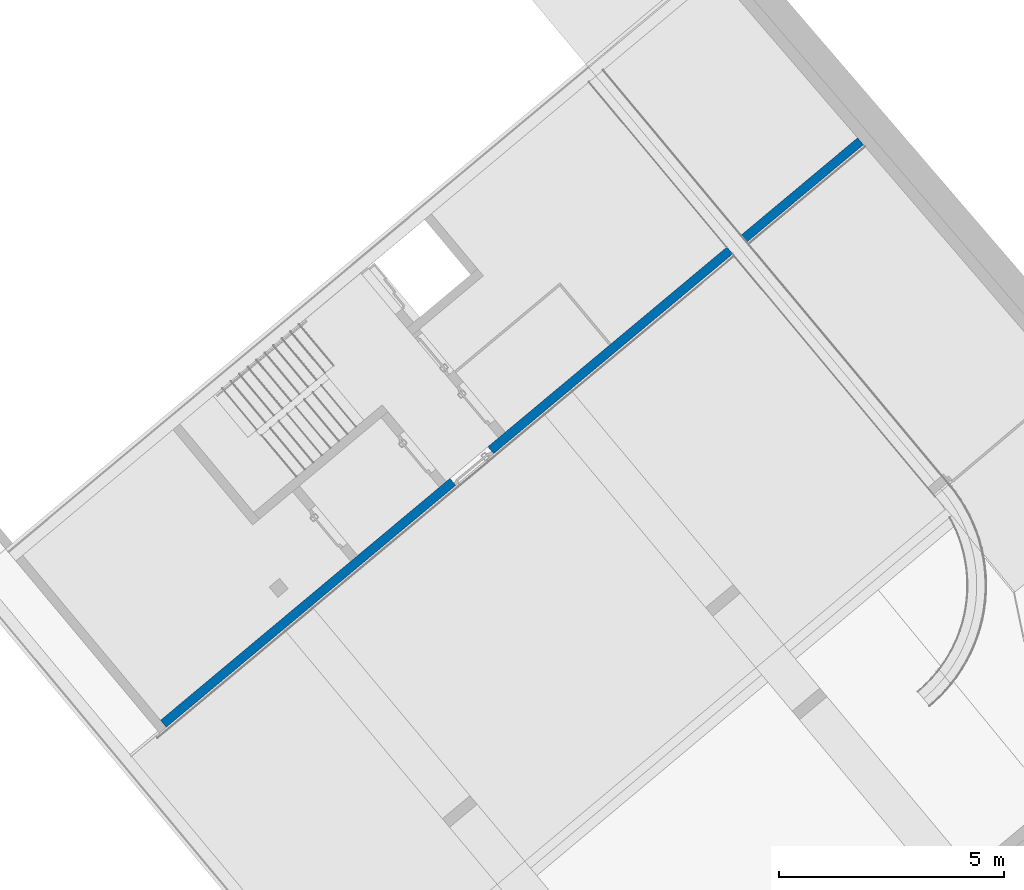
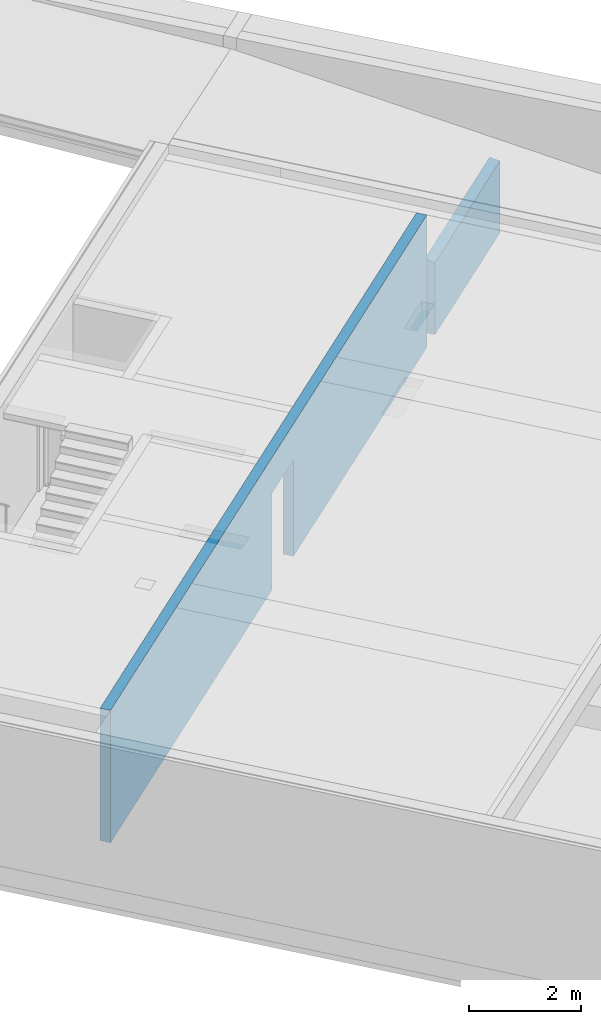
# One storey, part 4 of 14: 1 wall, 1 opening.
"""IFC4 building model written with IfcOpenShell, lengths in metres."""

from ifc_helpers import new_model, entity, si_unit, converted_unit, derived_unit, direction, frame, origin_with_axes, place, context, subcontext, project, spatial, polygons, material, type_object, element, save


model = new_model("IFC4")

# Units and contexts
model_context = context("Model", 3, precision=1e-05, world=origin_with_axes(), true_north=direction((0.0, 1.0)))
body_context = subcontext(model_context, "Body", "Model", "MODEL_VIEW")
ifc_project = project(units=[si_unit("LENGTHUNIT", "METRE"), si_unit("AREAUNIT", "SQUARE_METRE"), si_unit("VOLUMEUNIT", "CUBIC_METRE"), converted_unit("PLANEANGLEUNIT", "DEGREE", entity("IfcPlaneAngleMeasure", 0.0174532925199), si_unit("PLANEANGLEUNIT", "RADIAN"), dimensions=[0, 0, 0, 0, 0, 0, 0]), converted_unit("TIMEUNIT", "Year", entity("IfcTimeMeasure", 31556926.0), si_unit("TIMEUNIT", "SECOND"), dimensions=[0, 0, 1, 0, 0, 0, 0]), si_unit("MASSUNIT", "GRAM", prefix="KILO"), si_unit("THERMODYNAMICTEMPERATUREUNIT", "DEGREE_CELSIUS"), si_unit("LUMINOUSINTENSITYUNIT", "LUMEN"), si_unit("ENERGYUNIT", "JOULE", prefix="MEGA"), derived_unit("THERMALCONDUCTANCEUNIT", [(si_unit("POWERUNIT", "WATT"), 1), (si_unit("LENGTHUNIT", "METRE"), -1), (si_unit("THERMODYNAMICTEMPERATUREUNIT", "KELVIN"), -1)]), derived_unit("SPECIFICHEATCAPACITYUNIT", [(si_unit("ENERGYUNIT", "JOULE"), 1), (si_unit("MASSUNIT", "GRAM", prefix="KILO"), -1), (si_unit("THERMODYNAMICTEMPERATUREUNIT", "KELVIN"), -1)]), derived_unit("MASSDENSITYUNIT", [(si_unit("MASSUNIT", "GRAM", prefix="KILO"), 1), (si_unit("VOLUMEUNIT", "CUBIC_METRE"), -1)])], contexts=[model_context])

# Site, building, storey
site_placement = place(None, frame((-0.00153261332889, -0.00661245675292, 0.0), z_axis=(0.0, 0.0, 1.0), x_axis=(1.0, 0.0, 0.0)))
site = spatial("IfcSite", under=ifc_project, at=site_placement, Name="Gelände", CompositionType="ELEMENT")
building_placement = place(site_placement, origin_with_axes())
building = spatial("IfcBuilding", under=site, at=building_placement, Name="Gebäude", CompositionType="ELEMENT")
storey_placement = place(building_placement, frame((0.0, 0.0, -3.3), z_axis=(0.0, 0.0, 1.0), x_axis=(1.0, 0.0, 0.0)))
storey = spatial("IfcBuildingStorey", under=building, at=storey_placement, Name="UG1", CompositionType="ELEMENT", Elevation=-3.3)

# Wall, opening
ifc_material = material(Name="Stahlbeton Wand")
wall_type = type_object("IfcWallType", Name="Stahlbeton Wand 200", PredefinedType="NOTDEFINED")
wall_placement = place(storey_placement, frame((-4.28452034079, 15.6655942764, 0.0), z_axis=(0.0, 0.0, 1.0), x_axis=(0.767365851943, 0.641209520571, 0.0)))
wall = element("IfcWall", 1, at=wall_placement, inside=storey, type_object=wall_type, material=ifc_material, Name="Wand-007", PredefinedType="NOTDEFINED", context=body_context, shape_type="Tessellation", body=[
    polygons([(20.3757566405, 0.2, 1.60246849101), (20.3785150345, 0.0, 1.57079608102), (20.3785150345, 0.0, 0.0), (20.3757566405, 0.2, 0.0), (17.0098769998, 0.0, 1.566551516), (17.0098810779, 0.2, 1.59822740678), (17.0098769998, 0.0, 0.0), (17.0098810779, 0.2, 0.0)], [[[1, 2, 3, 4]], [[5, 2, 1, 6]], [[2, 5, 7, 3]], [[4, 3, 7, 8]], [[6, 1, 4, 8]], [[5, 6, 8, 7]]], closed=True),
    polygons([(8.57588353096, 0.0, 0.0), (8.57588353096, 0.0, 2.1), (9.67588353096, 0.0, 2.1), (9.67588353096, 0.0, 0.0), (16.5948769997, 0.0, 0.0), (16.5948769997, 0.0, 2.88), (0.200000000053, 0.0, 2.88), (0.200000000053, 0.0, 0.0), (8.57588353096, 0.07, 0.0), (8.57588353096, 0.2, 0.0), (8.57588353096, 0.2, 2.1), (9.67588353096, 0.2, 2.1), (9.67588353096, 0.07, 0.0), (9.67588353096, 0.2, 0.0), (16.5948810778, 0.2, 0.0), (16.5948810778, 0.2, 2.88), (0.200004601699, 0.2, 2.88), (0.200004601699, 0.2, 0.0)], [[[1, 2, 3, 4, 5, 6, 7, 8]], [[2, 1, 9, 10, 11]], [[3, 2, 11, 12]], [[13, 4, 3, 12, 14]], [[4, 13, 14, 15, 5]], [[6, 5, 15, 16]], [[16, 17, 7, 6]], [[7, 17, 18, 8]], [[9, 1, 8, 18, 10]], [[15, 14, 12, 11, 10, 18, 17, 16]]], closed=True),
])
opening_placement = place(wall_placement, frame((9.12588353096, 0.0, 0.0), z_axis=(0.0, 0.0, 1.0), x_axis=(1.0, 0.0, 0.0)))
element("IfcOpeningElement", 2, at=opening_placement, cuts=wall, Name="Tür-001", context=body_context, identifier="Reference", shape_type="Tessellation", body=[
    polygons([(-0.55, 0.07, 0.0), (-0.55, 0.07, 2.1), (-0.55, 10.3511134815, 2.1), (-0.55, 10.3511134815, 0.0), (-0.55, -10.1511134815, 0.0), (-0.55, -10.1511134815, 2.1), (0.55, 0.07, 2.1), (0.55, 10.3511134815, 2.1), (0.55, -10.1511134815, 2.1), (0.55, 10.3511134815, 0.0), (0.55, 0.07, 0.0), (0.55, -10.1511134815, 0.0)], [[[1, 2, 3, 4]], [[2, 1, 5, 6]], [[7, 8, 3, 2, 6, 9]], [[8, 10, 4, 3]], [[1, 4, 10, 11, 12, 5]], [[6, 5, 12, 9]], [[7, 11, 10, 8]], [[11, 7, 9, 12]]], closed=True),
])

save(model, "model.ifc")
